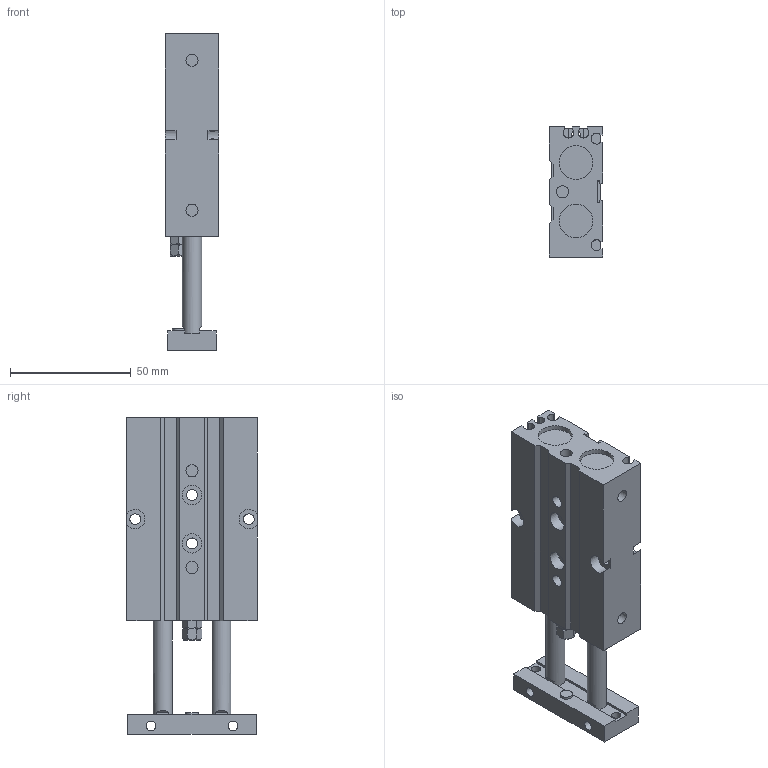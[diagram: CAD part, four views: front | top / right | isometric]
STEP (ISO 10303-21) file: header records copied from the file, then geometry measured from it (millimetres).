
FILE_DESCRIPTION((''),'2;1');
FILE_NAME('I:\3D電子目錄\氣缸\TD\TD16\TD16\TD16x30.stp','2007-08-06T09:39:35',('Administrator'),(''),'Autodesk Inventor 2008','Autodesk Inventor 2008','');
FILE_SCHEMA(('AUTOMOTIVE_DESIGN { 1 0 10303 214 1 1 1 1 }'));
Length unit declared in the file: millimetre
Products named in the file (1): TD16X30
Bounding box: 22 x 54 x 131 mm (x, y, z)
Volume: 98648.8 mm3; surface area: 27371.1 mm2
Topology: 1 solids, 3 shells, 179 faces, 465 edges, 304 vertices
Faces by surface type: plane 116, cylinder 42, bspline 12, cone 7, torus 2
Full cylindrical faces by diameter (mm): 4 x4, 4.5 x4, 5 x8, 6 x2, 7 x2, 8 x4, 14 x4
Entity records: 5819 total; most frequent: CARTESIAN_POINT 1627, ORIENTED_EDGE 824, DIRECTION 820, EDGE_CURVE 412, VERTEX_POINT 292, AXIS2_PLACEMENT_3D 274, VECTOR 272, LINE 272
